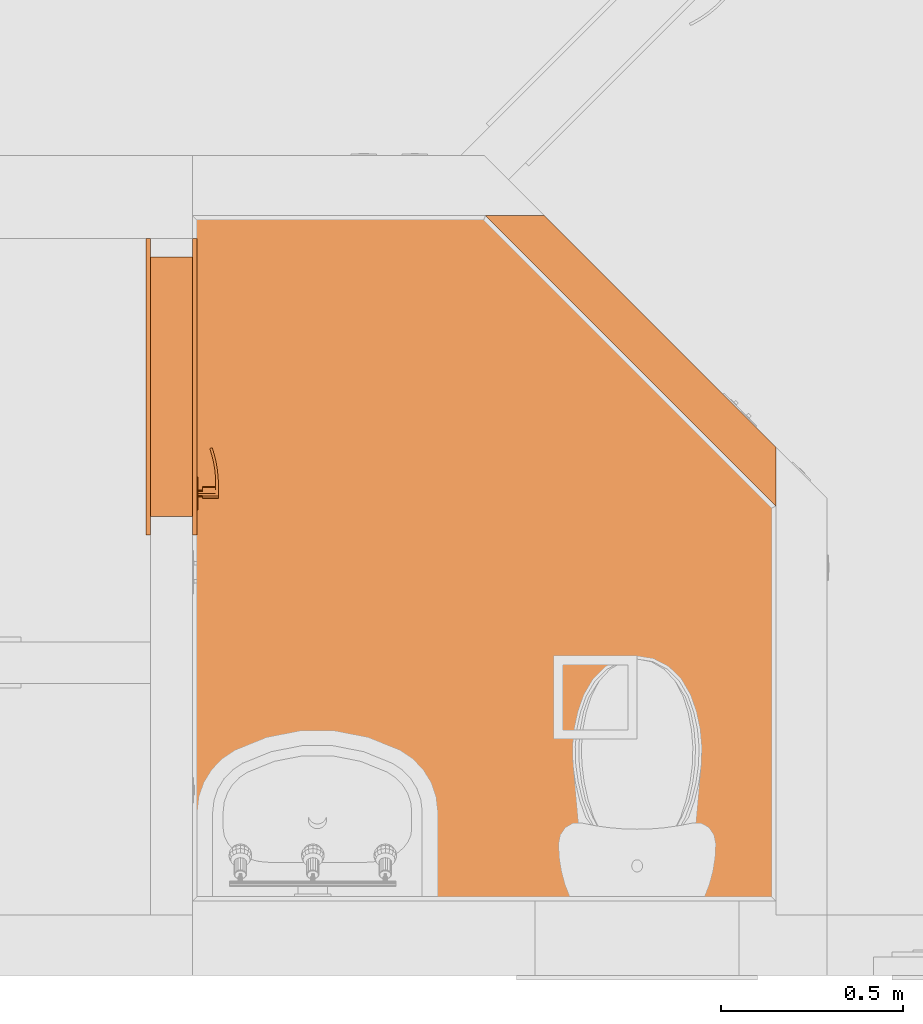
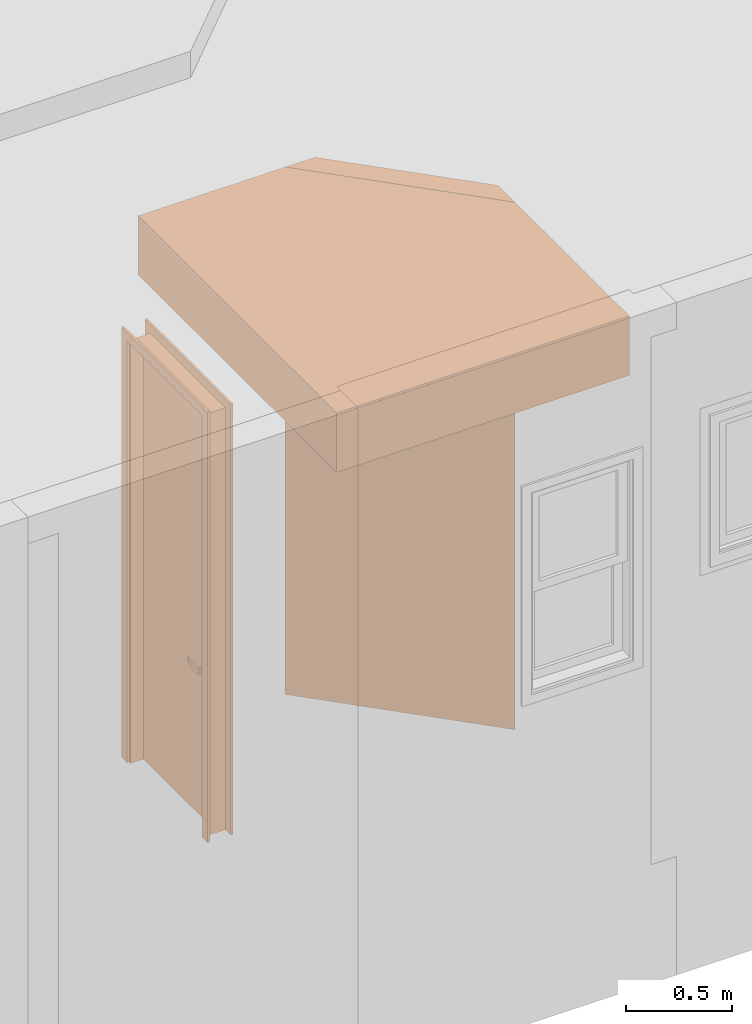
# One storey, part 81 of 103: 3 proxies.
"""IFC2X3 building model written with IfcOpenShell, lengths in inches."""

from ifc_helpers import new_model, entity, si_unit, converted_unit, derived_unit, money_unit, direction, frame, origin_with_axes, place, context, subcontext, project, spatial, open_shell, faceted_brep, surface_model, material, type_object, element, save


model = new_model("IFC2X3")

# Units and contexts
model_context = context("Model", 3, precision=0.00039370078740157, world=origin_with_axes(), true_north=direction((0.0, 1.0)))
plan_context = context("Plan", 3, precision=0.00039370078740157, world=origin_with_axes(), true_north=direction((0.0, 1.0)))
body_context = subcontext(model_context, "Body", "Model", "MODEL_VIEW")
ifc_project = project(units=[converted_unit("LENGTHUNIT", "INCH", entity("IfcPositiveLengthMeasure", 0.0254), si_unit("LENGTHUNIT", "METRE"), dimensions=[1, 0, 0, 0, 0, 0, 0]), converted_unit("AREAUNIT", "SQUARE_FOOT", entity("IfcPositiveLengthMeasure", 0.09290304), si_unit("AREAUNIT", "SQUARE_METRE"), dimensions=[2, 0, 0, 0, 0, 0, 0]), si_unit("PLANEANGLEUNIT", "RADIAN"), si_unit("SOLIDANGLEUNIT", "STERADIAN"), money_unit("USD"), converted_unit("TIMEUNIT", "Year", entity("IfcTimeMeasure", 31557600.0), si_unit("TIMEUNIT", "SECOND"), dimensions=[0, 0, 1, 0, 0, 0, 0]), si_unit("MASSUNIT", "GRAM", prefix="KILO"), si_unit("THERMODYNAMICTEMPERATUREUNIT", "DEGREE_CELSIUS"), si_unit("LUMINOUSINTENSITYUNIT", "LUMEN"), si_unit("ENERGYUNIT", "JOULE", prefix="MEGA"), derived_unit("SPECIFICHEATCAPACITYUNIT", [(si_unit("ENERGYUNIT", "JOULE"), 1), (si_unit("MASSUNIT", "GRAM", prefix="KILO"), -1), (si_unit("THERMODYNAMICTEMPERATUREUNIT", "KELVIN"), -1)])], contexts=[model_context, plan_context])

# Site, building, storey
site_placement = place(None, origin_with_axes())
site = spatial("IfcSite", under=ifc_project, at=site_placement, Name="Site", CompositionType="ELEMENT")
building_placement = place(site_placement, origin_with_axes())
building = spatial("IfcBuilding", under=site, at=building_placement, Name="Building", CompositionType="ELEMENT")
storey_placement = place(building_placement, frame((0.0, 0.0, 127.9999999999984), z_axis=(0.0, 0.0, 1.0), x_axis=(1.0, 0.0, 0.0)))
storey = spatial("IfcBuildingStorey", under=building, at=storey_placement, Name="Second Floor", CompositionType="ELEMENT", Elevation=128.0)

# Proxies
ifc_material = material(Name="Generic - Structural")
building_element_proxy_type_1 = type_object("IfcBuildingElementProxyType", Name="Generic - Structural 4 1/2\"", PredefinedType="NOTDEFINED")
proxy_1_placement = place(storey_placement, frame((383.9999999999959, 51.49999999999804, 0.0), z_axis=(0.0, 0.0, 1.0), x_axis=(-0.7071067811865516, 0.7071067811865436, 0.0)))
element("IfcBuildingElementProxy", 1, at=proxy_1_placement, inside=storey, type_object=building_element_proxy_type_1, material=ifc_material, Name="SW - 078", context=body_context, shape_type="Brep", body=[
    faceted_brep([(43.13351365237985, 0.0, 119.9999999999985), (47.6335136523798, 4.499999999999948, 119.9999999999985), (3.278174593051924, 4.499999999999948, 119.9999999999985), (7.778174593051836, 0.0, 119.9999999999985), (43.13351365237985, 0.0, 0.0), (47.6335136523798, 4.499999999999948, 0.0), (3.278174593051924, 4.499999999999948, 0.0), (7.778174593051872, 0.0, 0.0)], [[[0, 1, 2, 3]], [[1, 0, 4, 5]], [[1, 5, 6, 2]], [[7, 3, 2, 6]], [[4, 0, 3, 7]], [[5, 4, 7, 6]]]),
])
building_element_proxy_type_2 = type_object("IfcBuildingElementProxyType", Name="D1", PredefinedType="NOTDEFINED")
proxy_2_placement = place(storey_placement, frame((315.499999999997, 77.4999999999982, 0.0), z_axis=(0.0, 0.0, 1.0), x_axis=(0.0, -1.0, 0.0)))
element("IfcBuildingElementProxy", 2, at=proxy_2_placement, inside=storey, type_object=building_element_proxy_type_2, Name="D-07", context=body_context, shape_type="SurfaceModel", body=[
    faceted_brep([(29.99999999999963, 0.5000000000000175, 0.0), (29.99999999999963, 0.0, 0.0), (27.99999999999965, 0.0, 0.0), (27.99999999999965, 0.5000000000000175, 0.0), (29.99999999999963, 0.5000000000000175, 97.99999999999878), (29.99999999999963, 0.0, 97.99999999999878), (27.99999999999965, 0.0, 95.9999999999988), (27.99999999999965, 0.5000000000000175, 95.9999999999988)], [[[0, 1, 2, 3]], [[4, 5, 1, 0]], [[1, 5, 6, 2]], [[3, 2, 6, 7]], [[0, 3, 7, 4]], [[7, 6, 5, 4]]]),
    faceted_brep([(-1.999999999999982, 0.5000000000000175, 97.99999999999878), (-1.999999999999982, 0.0, 97.99999999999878), (0.0, 0.0, 95.9999999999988), (0.0, 0.5000000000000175, 95.9999999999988), (-1.999999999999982, 0.5000000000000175, 0.0), (-1.999999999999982, 0.0, 0.0), (0.0, 0.0, 0.0), (0.0, 0.5000000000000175, 0.0)], [[[0, 1, 2, 3]], [[4, 5, 1, 0]], [[1, 5, 6, 2]], [[3, 2, 6, 7]], [[0, 3, 7, 4]], [[7, 6, 5, 4]]]),
    faceted_brep([(29.99999999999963, 0.5000000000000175, 97.99999999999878), (29.99999999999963, 0.0, 97.99999999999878), (27.99999999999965, 0.0, 95.9999999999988), (27.99999999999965, 0.5000000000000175, 95.9999999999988), (-1.999999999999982, 0.5000000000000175, 97.99999999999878), (-1.999999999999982, 0.0, 97.99999999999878), (0.0, 0.0, 95.9999999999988), (0.0, 0.5000000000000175, 95.9999999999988)], [[[0, 1, 2, 3]], [[4, 5, 1, 0]], [[1, 5, 6, 2]], [[3, 2, 6, 7]], [[0, 3, 7, 4]], [[7, 6, 5, 4]]]),
    faceted_brep([(29.99999999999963, -4.99999999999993, 0.0), (27.99999999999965, -4.99999999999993, 0.0), (27.99999999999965, -4.499999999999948, 0.0), (29.99999999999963, -4.499999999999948, 0.0), (29.99999999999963, -4.99999999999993, 97.99999999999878), (27.99999999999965, -4.99999999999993, 95.9999999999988), (27.99999999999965, -4.499999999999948, 95.9999999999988), (29.99999999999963, -4.499999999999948, 97.99999999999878)], [[[0, 1, 2, 3]], [[0, 4, 5, 1]], [[1, 5, 6, 2]], [[3, 2, 6, 7]], [[4, 0, 3, 7]], [[5, 4, 7, 6]]]),
    faceted_brep([(-1.999999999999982, -4.99999999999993, 97.99999999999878), (0.0, -4.99999999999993, 95.9999999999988), (0.0, -4.499999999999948, 95.9999999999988), (-1.999999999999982, -4.499999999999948, 97.99999999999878), (-1.999999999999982, -4.99999999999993, 0.0), (0.0, -4.99999999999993, 0.0), (0.0, -4.499999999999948, 0.0), (-1.999999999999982, -4.499999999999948, 0.0)], [[[0, 1, 2, 3]], [[0, 4, 5, 1]], [[1, 5, 6, 2]], [[3, 2, 6, 7]], [[4, 0, 3, 7]], [[5, 4, 7, 6]]]),
    faceted_brep([(29.99999999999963, -4.99999999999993, 97.99999999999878), (27.99999999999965, -4.99999999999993, 95.9999999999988), (27.99999999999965, -4.499999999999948, 95.9999999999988), (29.99999999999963, -4.499999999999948, 97.99999999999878), (-1.999999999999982, -4.99999999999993, 97.99999999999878), (0.0, -4.99999999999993, 95.9999999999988), (0.0, -4.499999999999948, 95.9999999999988), (-1.999999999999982, -4.499999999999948, 97.99999999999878)], [[[0, 1, 2, 3]], [[0, 4, 5, 1]], [[1, 5, 6, 2]], [[3, 2, 6, 7]], [[4, 0, 3, 7]], [[5, 4, 7, 6]]]),
    faceted_brep([(27.99999999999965, 0.0, 0.0), (27.99999999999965, -4.499999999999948, 0.0), (27.49999999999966, -4.499999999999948, 0.0), (27.49999999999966, 0.0, 0.0), (27.99999999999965, 0.0, 95.49999999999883), (27.99999999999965, -4.499999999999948, 95.49999999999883), (27.49999999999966, -4.499999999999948, 95.49999999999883), (27.49999999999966, 0.0, 95.49999999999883)], [[[0, 1, 2, 3]], [[4, 5, 1, 0]], [[1, 5, 6, 2]], [[3, 2, 6, 7]], [[0, 3, 7, 4]], [[7, 6, 5, 4]]]),
    faceted_brep([(0.0, 0.0, 0.0), (0.0, -4.499999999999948, 0.0), (0.0, -4.499999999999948, 95.49999999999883), (0.0, 0.0, 95.49999999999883), (0.4999999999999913, 0.0, 0.0), (0.4999999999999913, -4.499999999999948, 0.0), (0.4999999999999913, -4.499999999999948, 95.49999999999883), (0.4999999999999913, 0.0, 95.49999999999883)], [[[0, 1, 2, 3]], [[4, 5, 1, 0]], [[1, 5, 6, 2]], [[3, 2, 6, 7]], [[0, 3, 7, 4]], [[7, 6, 5, 4]]]),
    faceted_brep([(27.99999999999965, 0.0, 95.9999999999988), (27.99999999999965, -4.499999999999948, 95.9999999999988), (27.99999999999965, -4.499999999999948, 95.49999999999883), (27.99999999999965, 0.0, 95.49999999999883), (0.0, 0.0, 95.9999999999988), (0.0, -4.499999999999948, 95.9999999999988), (0.0, -4.499999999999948, 95.49999999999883), (0.4999999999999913, -4.499999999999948, 95.49999999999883), (27.49999999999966, -4.499999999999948, 95.49999999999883), (27.49999999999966, 0.0, 95.49999999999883), (0.4999999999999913, 0.0, 95.49999999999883), (0.0, 0.0, 95.49999999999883)], [[[0, 1, 2, 3]], [[4, 5, 1, 0]], [[1, 5, 6, 7, 8, 2]], [[3, 2, 8, 9]], [[0, 3, 9, 10, 11, 4]], [[11, 6, 5, 4]], [[10, 7, 6, 11]], [[9, 8, 7, 10]]]),
    surface_model("IfcShellBasedSurfaceModel", [(23.94865528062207, -2.340551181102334, 36.89566929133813), (23.94865528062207, -2.336614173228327, 36.89566929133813), (23.70866141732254, -2.336614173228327, 35.99999999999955), (23.70866141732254, -2.340551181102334, 35.99999999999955), (24.60433070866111, -2.340551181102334, 37.55134471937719), (24.60433070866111, -2.336614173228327, 37.55134471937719), (23.94865528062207, -1.753937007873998, 36.89566929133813), (23.70866141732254, -1.753937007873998, 35.99999999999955), (23.94865528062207, -2.336614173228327, 35.104330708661), (23.94865528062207, -2.340551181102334, 35.104330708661), (24.60433070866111, -2.340551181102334, 34.44865528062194), (25.49999999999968, -2.340551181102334, 34.20866141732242), (26.39566929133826, -2.340551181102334, 34.44865528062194), (27.0513447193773, -2.340551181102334, 35.104330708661), (27.29133858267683, -2.340551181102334, 35.99999999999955), (27.0513447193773, -2.340551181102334, 36.89566929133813), (26.39566929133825, -2.340551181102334, 37.55134471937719), (25.49999999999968, -2.340551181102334, 37.79133858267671), (25.49999999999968, -2.336614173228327, 37.79133858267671), (24.60433070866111, -1.753937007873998, 37.55134471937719), (23.94865528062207, -1.749999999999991, 36.89566929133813), (23.70866141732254, -1.749999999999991, 35.99999999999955), (23.94865528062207, -1.753937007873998, 35.104330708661), (24.60433070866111, -2.336614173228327, 34.44865528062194), (25.49999999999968, -2.336614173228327, 34.20866141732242), (26.39566929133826, -2.336614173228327, 34.44865528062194), (27.0513447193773, -2.336614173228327, 35.104330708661), (27.29133858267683, -2.336614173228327, 35.99999999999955), (27.0513447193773, -2.336614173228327, 36.89566929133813), (26.39566929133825, -2.336614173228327, 37.55134471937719), (25.49999999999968, -1.753937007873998, 37.79133858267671), (24.60433070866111, -1.749999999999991, 37.55134471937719), (23.94865528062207, -1.749999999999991, 35.104330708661), (24.60433070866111, -1.753937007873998, 34.44865528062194), (25.49999999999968, -1.753937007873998, 34.20866141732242), (26.39566929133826, -1.753937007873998, 34.44865528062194), (27.0513447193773, -1.753937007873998, 35.104330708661), (27.29133858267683, -1.753937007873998, 35.99999999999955), (27.0513447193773, -1.753937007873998, 36.89566929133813), (26.39566929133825, -1.753937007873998, 37.55134471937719), (25.49999999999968, -1.749999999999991, 37.79133858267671), (24.60433070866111, -1.749999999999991, 34.44865528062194), (25.49999999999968, -1.749999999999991, 34.20866141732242), (26.39566929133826, -1.749999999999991, 34.44865528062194), (27.0513447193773, -1.749999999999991, 35.104330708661), (27.29133858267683, -1.749999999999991, 35.99999999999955), (27.0513447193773, -1.749999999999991, 36.89566929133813), (26.39566929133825, -1.749999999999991, 37.55134471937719)], [open_shell([[[0, 1, 2, 3]], [[4, 5, 1, 0]], [[1, 6, 7, 2]], [[3, 2, 8, 9]], [[3, 9, 10, 11, 12, 13, 14, 15, 16, 17, 4, 0]], [[17, 18, 5, 4]], [[5, 19, 6, 1]], [[6, 20, 21, 7]], [[2, 7, 22, 8]], [[9, 8, 23, 10]], [[10, 23, 24, 11]], [[11, 24, 25, 12]], [[12, 25, 26, 13]], [[13, 26, 27, 14]], [[14, 27, 28, 15]], [[15, 28, 29, 16]], [[16, 29, 18, 17]], [[18, 30, 19, 5]], [[19, 31, 20, 6]], [[7, 21, 32, 22]], [[8, 22, 33, 23]], [[23, 33, 34, 24]], [[24, 34, 35, 25]], [[25, 35, 36, 26]], [[26, 36, 37, 27]], [[27, 37, 38, 28]], [[28, 38, 39, 29]], [[29, 39, 30, 18]], [[30, 40, 31, 19]], [[22, 32, 41, 33]], [[33, 41, 42, 34]], [[34, 42, 43, 35]], [[35, 43, 44, 36]], [[36, 44, 45, 37]], [[37, 45, 46, 38]], [[38, 46, 47, 39]], [[39, 47, 40, 30]]])]),
    faceted_brep([(25.69685039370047, -2.340551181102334, 35.65904511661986), (25.49999999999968, -2.340551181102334, 35.60629921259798), (25.30314960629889, -2.340551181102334, 35.65904511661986), (25.15904511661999, -2.340551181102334, 35.80314960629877), (25.10629921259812, -2.340551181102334, 35.99999999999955), (25.15904511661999, -2.340551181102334, 36.19685039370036), (25.30314960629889, -2.340551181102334, 36.34095488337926), (25.49999999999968, -2.340551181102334, 36.39370078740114), (25.69685039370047, -2.340551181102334, 36.34095488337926), (25.84095488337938, -2.340551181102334, 36.19685039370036), (25.89370078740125, -2.340551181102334, 35.99999999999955), (25.84095488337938, -2.340551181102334, 35.80314960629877), (25.69685039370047, -2.852362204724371, 35.65904511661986), (25.49999999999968, -2.852362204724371, 35.60629921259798), (25.30314960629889, -2.852362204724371, 35.65904511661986), (25.15904511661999, -2.852362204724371, 35.80314960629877), (25.10629921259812, -2.852362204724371, 35.99999999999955), (25.15904511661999, -2.852362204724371, 36.19685039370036), (25.30314960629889, -2.852362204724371, 36.34095488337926), (25.49999999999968, -2.852362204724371, 36.39370078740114), (25.69685039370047, -2.852362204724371, 36.34095488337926), (25.84095488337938, -2.852362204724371, 36.19685039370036), (25.89370078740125, -2.852362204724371, 35.99999999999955), (25.84095488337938, -2.852362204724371, 35.80314960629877)], [[[0, 1, 2, 3, 4, 5, 6, 7, 8, 9, 10, 11]], [[0, 12, 13, 1]], [[1, 13, 14, 2]], [[2, 14, 15, 3]], [[3, 15, 16, 4]], [[4, 16, 17, 5]], [[5, 17, 18, 6]], [[6, 18, 19, 7]], [[7, 19, 20, 8]], [[8, 20, 21, 9]], [[9, 21, 22, 10]], [[10, 22, 23, 11]], [[11, 23, 12, 0]], [[12, 23, 22, 21, 20, 19, 18, 17, 16, 15, 14, 13]]]),
    faceted_brep([(25.49999999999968, -2.852362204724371, 36.55118110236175), (25.49999999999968, -4.269685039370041, 36.55118110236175), (25.77559055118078, -4.269685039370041, 36.47733683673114), (25.77559055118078, -2.852362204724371, 36.47733683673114), (25.10629921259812, -2.852362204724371, 36.47244094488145), (25.10629921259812, -4.269685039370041, 36.47244094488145), (24.87352117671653, -4.269685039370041, 36.35358914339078), (24.73705189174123, -4.269685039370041, 36.13068221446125), (24.73705189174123, -4.269685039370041, 35.86931778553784), (24.87352117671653, -4.269685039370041, 35.64641085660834), (25.10629921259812, -4.269685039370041, 35.52755905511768), (25.49999999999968, -4.269685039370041, 35.44881889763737), (25.77559055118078, -4.269685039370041, 35.52266316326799), (25.97733683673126, -4.269685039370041, 35.72440944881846), (26.05118110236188, -4.269685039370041, 35.99999999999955), (25.97733683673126, -4.269685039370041, 36.27559055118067), (25.97733683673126, -2.852362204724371, 36.27559055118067), (26.05118110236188, -2.852362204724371, 35.99999999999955), (25.97733683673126, -2.852362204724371, 35.72440944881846), (25.77559055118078, -2.852362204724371, 35.52266316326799), (25.49999999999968, -2.852362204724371, 35.44881889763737), (25.10629921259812, -2.852362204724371, 35.52755905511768), (24.87352117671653, -2.852362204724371, 35.64641085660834), (24.73705189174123, -2.852362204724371, 35.86931778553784), (24.73705189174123, -2.852362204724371, 36.13068221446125), (24.87352117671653, -2.852362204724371, 36.35358914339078)], [[[0, 1, 2, 3]], [[4, 5, 1, 0]], [[1, 5, 6, 7, 8, 9, 10, 11, 12, 13, 14, 15, 2]], [[3, 2, 15, 16]], [[0, 3, 16, 17, 18, 19, 20, 21, 22, 23, 24, 25, 4]], [[25, 6, 5, 4]], [[24, 7, 6, 25]], [[23, 8, 7, 24]], [[22, 9, 8, 23]], [[21, 10, 9, 22]], [[20, 11, 10, 21]], [[19, 12, 11, 20]], [[18, 13, 12, 19]], [[17, 14, 13, 18]], [[16, 15, 14, 17]]]),
    surface_model("IfcShellBasedSurfaceModel", [(25.49999999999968, -4.269685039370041, 36.55118110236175), (25.49999999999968, -4.545275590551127, 36.55118110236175), (25.77559055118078, -4.545275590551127, 36.47733683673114), (25.77559055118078, -4.269685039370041, 36.47733683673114), (24.51574803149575, -4.269685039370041, 36.55118110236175), (24.51574803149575, -4.545275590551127, 36.55118110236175), (24.51574803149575, -4.545275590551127, 35.44881889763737), (25.49999999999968, -4.545275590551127, 35.44881889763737), (25.77559055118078, -4.545275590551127, 35.52266316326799), (25.97733683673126, -4.545275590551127, 35.72440944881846), (26.05118110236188, -4.545275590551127, 35.99999999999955), (25.97733683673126, -4.545275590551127, 36.27559055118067), (25.97733683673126, -4.269685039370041, 36.27559055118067), (26.05118110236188, -4.269685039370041, 35.99999999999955), (25.97733683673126, -4.269685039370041, 35.72440944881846), (25.77559055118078, -4.269685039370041, 35.52266316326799), (25.49999999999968, -4.269685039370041, 35.44881889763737), (24.51574803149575, -4.269685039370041, 35.44881889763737)], [open_shell([[[0, 1, 2, 3]], [[4, 5, 1, 0]], [[1, 5, 6, 7, 8, 9, 10, 11, 2]], [[3, 2, 11, 12]], [[0, 3, 12, 13, 14, 15, 16, 17, 4]], [[16, 7, 6, 17]], [[15, 8, 7, 16]], [[14, 9, 8, 15]], [[13, 10, 9, 14]], [[12, 11, 10, 13]]])]),
    surface_model("IfcShellBasedSurfaceModel", [(24.51574803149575, -4.269685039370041, 35.44881889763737), (23.98803506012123, -4.545275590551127, 35.47974008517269), (24.00006760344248, -4.269685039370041, 35.47974008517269), (24.51574803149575, -4.545275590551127, 35.44881889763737), (22.93662533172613, -4.453289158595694, 35.54158246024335), (24.00006760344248, -4.269685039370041, 36.52025991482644), (24.51574803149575, -4.269685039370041, 36.55118110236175), (24.51574803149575, -4.545275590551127, 36.55118110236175), (23.98803506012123, -4.545275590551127, 36.52025991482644), (22.93662533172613, -4.453289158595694, 36.45841753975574), (22.97263138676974, -4.179796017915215, 35.54158246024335), (22.97263138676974, -4.179796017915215, 36.45841753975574), (21.89723368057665, -4.270016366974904, 36.39657516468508), (21.89723368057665, -4.270016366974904, 35.60342483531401), (21.95693921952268, -4.000702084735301, 35.60342483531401), (21.95693921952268, -4.000702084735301, 36.39657516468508), (20.87777050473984, -3.996852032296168, 36.33473278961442), (20.87777050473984, -3.996852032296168, 35.66526721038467), (20.96072113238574, -3.733766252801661, 35.66526721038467), (20.96072113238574, -3.733766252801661, 36.33473278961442), (20.56058250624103, -3.881405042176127, 36.3149606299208), (20.56058250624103, -3.881405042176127, 35.68503937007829), (20.65076543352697, -3.620951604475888, 35.68503937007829), (20.65076543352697, -3.620951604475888, 36.3149606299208)], [open_shell([[[0, 1, 2]], [[0, 3, 1]], [[2, 1, 4]], [[0, 2, 5, 6]], [[3, 7, 8, 1]], [[1, 8, 9, 4]], [[2, 4, 10]], [[2, 10, 11, 5]], [[5, 7, 6]], [[5, 8, 7]], [[11, 9, 8]], [[4, 9, 12, 13]], [[10, 4, 13]], [[10, 14, 15, 11]], [[11, 8, 5]], [[15, 9, 11]], [[15, 12, 9]], [[13, 12, 16, 17]], [[10, 13, 14]], [[14, 18, 19, 15]], [[19, 12, 15]], [[19, 16, 12]], [[17, 16, 20, 21]], [[14, 13, 17]], [[14, 17, 18]], [[18, 22, 23, 19]], [[23, 16, 19]], [[23, 20, 16]], [[22, 21, 20, 23]], [[18, 17, 21]], [[18, 21, 22]]])]),
    surface_model("IfcShellBasedSurfaceModel", [(23.94865528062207, 0.5905511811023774, 36.89566929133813), (23.70866141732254, 0.5905511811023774, 35.99999999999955), (23.70866141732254, 0.5866141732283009, 35.99999999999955), (23.94865528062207, 0.5866141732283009, 36.89566929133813), (24.60433070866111, 0.5905511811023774, 37.55134471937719), (25.49999999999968, 0.5905511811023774, 37.79133858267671), (26.39566929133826, 0.5905511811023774, 37.55134471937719), (27.0513447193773, 0.5905511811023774, 36.89566929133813), (27.29133858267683, 0.5905511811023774, 35.99999999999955), (27.0513447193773, 0.5905511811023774, 35.104330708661), (26.39566929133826, 0.5905511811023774, 34.44865528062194), (25.49999999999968, 0.5905511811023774, 34.20866141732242), (24.60433070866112, 0.5905511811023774, 34.44865528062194), (23.94865528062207, 0.5905511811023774, 35.104330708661), (23.94865528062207, 0.5866141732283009, 35.104330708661), (23.70866141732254, 0.003937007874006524, 35.99999999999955), (23.94865528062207, 0.003937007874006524, 36.89566929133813), (24.60433070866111, 0.5866141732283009, 37.55134471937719), (25.49999999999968, 0.5866141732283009, 37.79133858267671), (26.39566929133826, 0.5866141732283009, 37.55134471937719), (27.0513447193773, 0.5866141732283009, 36.89566929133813), (27.29133858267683, 0.5866141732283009, 35.99999999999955), (27.0513447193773, 0.5866141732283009, 35.104330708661), (26.39566929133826, 0.5866141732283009, 34.44865528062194), (25.49999999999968, 0.5866141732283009, 34.20866141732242), (24.60433070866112, 0.5866141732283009, 34.44865528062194), (23.94865528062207, 0.003937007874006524, 35.104330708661), (23.70866141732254, 0.0, 35.99999999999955), (23.94865528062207, 0.0, 36.89566929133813), (24.60433070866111, 0.003937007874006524, 37.55134471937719), (25.49999999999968, 0.003937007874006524, 37.79133858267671), (26.39566929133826, 0.003937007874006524, 37.55134471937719), (27.0513447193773, 0.003937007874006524, 36.89566929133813), (27.29133858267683, 0.003937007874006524, 35.99999999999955), (27.0513447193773, 0.003937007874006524, 35.104330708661), (26.39566929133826, 0.003937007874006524, 34.44865528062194), (25.49999999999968, 0.003937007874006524, 34.20866141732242), (24.60433070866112, 0.003937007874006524, 34.44865528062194), (23.94865528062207, 0.0, 35.104330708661), (24.60433070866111, 0.0, 37.55134471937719), (25.49999999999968, 0.0, 37.79133858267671), (26.39566929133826, 0.0, 37.55134471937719), (27.0513447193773, 0.0, 36.89566929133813), (27.29133858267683, 0.0, 35.99999999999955), (27.0513447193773, 0.0, 35.104330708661), (26.39566929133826, 0.0, 34.44865528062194), (25.49999999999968, 0.0, 34.20866141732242), (24.60433070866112, 0.0, 34.44865528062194)], [open_shell([[[0, 1, 2, 3]], [[1, 0, 4, 5, 6, 7, 8, 9, 10, 11, 12, 13]], [[1, 13, 14, 2]], [[3, 2, 15, 16]], [[4, 0, 3, 17]], [[5, 4, 17, 18]], [[6, 5, 18, 19]], [[7, 6, 19, 20]], [[8, 7, 20, 21]], [[9, 8, 21, 22]], [[10, 9, 22, 23]], [[11, 10, 23, 24]], [[12, 11, 24, 25]], [[13, 12, 25, 14]], [[2, 14, 26, 15]], [[16, 15, 27, 28]], [[17, 3, 16, 29]], [[18, 17, 29, 30]], [[19, 18, 30, 31]], [[20, 19, 31, 32]], [[21, 20, 32, 33]], [[22, 21, 33, 34]], [[23, 22, 34, 35]], [[24, 23, 35, 36]], [[25, 24, 36, 37]], [[14, 25, 37, 26]], [[15, 26, 38, 27]], [[29, 16, 28, 39]], [[30, 29, 39, 40]], [[31, 30, 40, 41]], [[32, 31, 41, 42]], [[33, 32, 42, 43]], [[34, 33, 43, 44]], [[35, 34, 44, 45]], [[36, 35, 45, 46]], [[37, 36, 46, 47]], [[26, 37, 47, 38]]])]),
    faceted_brep([(25.69685039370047, 0.5905511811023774, 35.65904511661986), (25.84095488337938, 0.5905511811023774, 35.80314960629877), (25.89370078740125, 0.5905511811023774, 35.99999999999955), (25.84095488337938, 0.5905511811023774, 36.19685039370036), (25.69685039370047, 0.5905511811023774, 36.34095488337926), (25.49999999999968, 0.5905511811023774, 36.39370078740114), (25.30314960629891, 0.5905511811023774, 36.34095488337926), (25.15904511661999, 0.5905511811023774, 36.19685039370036), (25.10629921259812, 0.5905511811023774, 35.99999999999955), (25.15904511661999, 0.5905511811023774, 35.80314960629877), (25.30314960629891, 0.5905511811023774, 35.65904511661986), (25.49999999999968, 0.5905511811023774, 35.60629921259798), (25.69685039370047, 1.102362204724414, 35.65904511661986), (25.84095488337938, 1.102362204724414, 35.80314960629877), (25.89370078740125, 1.102362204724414, 35.99999999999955), (25.84095488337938, 1.102362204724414, 36.19685039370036), (25.69685039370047, 1.102362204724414, 36.34095488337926), (25.49999999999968, 1.102362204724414, 36.39370078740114), (25.30314960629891, 1.102362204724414, 36.34095488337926), (25.15904511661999, 1.102362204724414, 36.19685039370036), (25.10629921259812, 1.102362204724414, 35.99999999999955), (25.15904511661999, 1.102362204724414, 35.80314960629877), (25.30314960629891, 1.102362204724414, 35.65904511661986), (25.49999999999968, 1.102362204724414, 35.60629921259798)], [[[0, 1, 2, 3, 4, 5, 6, 7, 8, 9, 10, 11]], [[1, 0, 12, 13]], [[2, 1, 13, 14]], [[3, 2, 14, 15]], [[4, 3, 15, 16]], [[5, 4, 16, 17]], [[6, 5, 17, 18]], [[7, 6, 18, 19]], [[8, 7, 19, 20]], [[9, 8, 20, 21]], [[10, 9, 21, 22]], [[11, 10, 22, 23]], [[0, 11, 23, 12]], [[12, 23, 22, 21, 20, 19, 18, 17, 16, 15, 14, 13]]]),
    faceted_brep([(25.49999999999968, 1.102362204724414, 36.55118110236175), (25.77559055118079, 1.102362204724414, 36.47733683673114), (25.77559055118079, 2.51968503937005, 36.47733683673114), (25.49999999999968, 2.51968503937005, 36.55118110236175), (25.10629921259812, 1.102362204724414, 36.47244094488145), (24.87352117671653, 1.102362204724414, 36.35358914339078), (24.73705189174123, 1.102362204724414, 36.13068221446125), (24.73705189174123, 1.102362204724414, 35.86931778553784), (24.87352117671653, 1.102362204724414, 35.64641085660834), (25.10629921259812, 1.102362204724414, 35.52755905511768), (25.49999999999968, 1.102362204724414, 35.44881889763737), (25.77559055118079, 1.102362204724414, 35.52266316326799), (25.97733683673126, 1.102362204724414, 35.72440944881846), (26.05118110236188, 1.102362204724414, 35.99999999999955), (25.97733683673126, 1.102362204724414, 36.27559055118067), (25.97733683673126, 2.51968503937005, 36.27559055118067), (26.05118110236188, 2.51968503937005, 35.99999999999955), (25.97733683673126, 2.51968503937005, 35.72440944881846), (25.77559055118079, 2.51968503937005, 35.52266316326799), (25.49999999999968, 2.51968503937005, 35.44881889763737), (25.10629921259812, 2.51968503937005, 35.52755905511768), (24.87352117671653, 2.51968503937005, 35.64641085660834), (24.73705189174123, 2.51968503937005, 35.86931778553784), (24.73705189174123, 2.51968503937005, 36.13068221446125), (24.87352117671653, 2.51968503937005, 36.35358914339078), (25.10629921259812, 2.51968503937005, 36.47244094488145)], [[[0, 1, 2, 3]], [[0, 4, 5, 6, 7, 8, 9, 10, 11, 12, 13, 14, 1]], [[1, 14, 15, 2]], [[3, 2, 15, 16, 17, 18, 19, 20, 21, 22, 23, 24, 25]], [[4, 0, 3, 25]], [[5, 4, 25, 24]], [[6, 5, 24, 23]], [[7, 6, 23, 22]], [[8, 7, 22, 21]], [[9, 8, 21, 20]], [[10, 9, 20, 19]], [[11, 10, 19, 18]], [[12, 11, 18, 17]], [[13, 12, 17, 16]], [[14, 13, 16, 15]]]),
    surface_model("IfcShellBasedSurfaceModel", [(25.49999999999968, 2.51968503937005, 36.55118110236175), (25.77559055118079, 2.51968503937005, 36.47733683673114), (25.77559055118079, 2.795275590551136, 36.47733683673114), (25.49999999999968, 2.795275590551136, 36.55118110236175), (24.51574803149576, 2.51968503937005, 36.55118110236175), (24.51574803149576, 2.51968503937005, 35.44881889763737), (25.49999999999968, 2.51968503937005, 35.44881889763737), (25.77559055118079, 2.51968503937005, 35.52266316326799), (25.97733683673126, 2.51968503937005, 35.72440944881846), (26.05118110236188, 2.51968503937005, 35.99999999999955), (25.97733683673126, 2.51968503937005, 36.27559055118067), (25.97733683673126, 2.795275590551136, 36.27559055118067), (26.05118110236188, 2.795275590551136, 35.99999999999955), (25.97733683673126, 2.795275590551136, 35.72440944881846), (25.77559055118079, 2.795275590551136, 35.52266316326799), (25.49999999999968, 2.795275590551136, 35.44881889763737), (24.51574803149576, 2.795275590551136, 35.44881889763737), (24.51574803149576, 2.795275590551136, 36.55118110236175)], [open_shell([[[0, 1, 2, 3]], [[0, 4, 5, 6, 7, 8, 9, 10, 1]], [[1, 10, 11, 2]], [[3, 2, 11, 12, 13, 14, 15, 16, 17]], [[4, 0, 3, 17]], [[6, 5, 16, 15]], [[7, 6, 15, 14]], [[8, 7, 14, 13]], [[9, 8, 13, 12]], [[10, 9, 12, 11]]])]),
    surface_model("IfcShellBasedSurfaceModel", [(24.51574803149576, 2.51968503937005, 35.44881889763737), (24.00006760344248, 2.51968503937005, 35.47974008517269), (23.98803506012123, 2.795275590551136, 35.47974008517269), (24.51574803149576, 2.51968503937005, 36.55118110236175), (24.00006760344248, 2.51968503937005, 36.52025991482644), (22.93662533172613, 2.703289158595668, 35.54158246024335), (24.51574803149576, 2.795275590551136, 35.44881889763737), (24.51574803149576, 2.795275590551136, 36.55118110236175), (22.97263138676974, 2.429796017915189, 36.45841753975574), (22.97263138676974, 2.429796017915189, 35.54158246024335), (22.93662533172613, 2.703289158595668, 36.45841753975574), (23.98803506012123, 2.795275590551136, 36.52025991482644), (21.95693921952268, 2.250702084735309, 36.39657516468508), (21.95693921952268, 2.250702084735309, 35.60342483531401), (21.89723368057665, 2.520016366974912, 35.60342483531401), (21.89723368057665, 2.520016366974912, 36.39657516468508), (20.96072113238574, 1.983766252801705, 36.33473278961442), (20.96072113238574, 1.983766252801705, 35.66526721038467), (20.87777050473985, 2.246852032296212, 35.66526721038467), (20.87777050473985, 2.246852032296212, 36.33473278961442), (20.65076543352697, 1.870951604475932, 36.3149606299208), (20.65076543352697, 1.870951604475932, 35.68503937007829), (20.56058250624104, 2.131405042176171, 35.68503937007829), (20.56058250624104, 2.131405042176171, 36.3149606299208)], [open_shell([[[0, 1, 2]], [[0, 3, 4, 1]], [[1, 5, 2]], [[0, 2, 6]], [[4, 3, 7]], [[1, 4, 8, 9]], [[1, 9, 5]], [[2, 5, 10, 11]], [[6, 2, 11, 7]], [[4, 7, 11]], [[8, 4, 11]], [[9, 8, 12, 13]], [[9, 14, 5]], [[5, 14, 15, 10]], [[8, 11, 10]], [[12, 8, 10]], [[13, 12, 16, 17]], [[9, 13, 14]], [[14, 18, 19, 15]], [[12, 10, 15]], [[16, 12, 15]], [[17, 16, 20, 21]], [[13, 17, 18]], [[13, 18, 14]], [[18, 22, 23, 19]], [[16, 15, 19]], [[20, 16, 19]], [[21, 20, 23, 22]], [[17, 21, 22]], [[17, 22, 18]], [[20, 19, 23]]])]),
    faceted_brep([(27.4606299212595, -1.749999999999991, 0.03937007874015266), (27.4606299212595, -1.749999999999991, 95.46062992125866), (0.5393700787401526, -1.749999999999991, 95.46062992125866), (0.5393700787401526, -1.749999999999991, 0.03937007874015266), (27.4606299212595, 0.0, 0.03937007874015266), (27.4606299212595, 0.0, 95.46062992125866), (0.5393700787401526, 0.0, 95.46062992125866), (0.5393700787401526, 0.0, 0.03937007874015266)], [[[0, 1, 2, 3]], [[4, 5, 1, 0]], [[2, 1, 5, 6]], [[3, 2, 6, 7]], [[7, 4, 0, 3]], [[7, 6, 5, 4]]]),
    faceted_brep([(0.4999999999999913, 0.0, 0.0), (27.49999999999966, 0.0, 0.0), (27.49999999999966, -1.749999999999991, 0.0), (0.4999999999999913, -1.749999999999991, 0.0), (0.4999999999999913, 0.0, 95.49999999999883), (27.49999999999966, 0.0, 95.49999999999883), (0.5393700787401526, 0.0, 0.03937007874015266), (27.4606299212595, 0.0, 0.03937007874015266), (27.4606299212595, 0.0, 95.46062992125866), (0.5393700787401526, 0.0, 95.46062992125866), (27.49999999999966, -1.749999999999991, 95.49999999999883), (0.4999999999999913, -1.749999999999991, 95.49999999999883), (0.5393700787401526, -1.749999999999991, 0.03937007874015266), (0.5393700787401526, -1.749999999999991, 95.46062992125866), (27.4606299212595, -1.749999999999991, 95.46062992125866), (27.4606299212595, -1.749999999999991, 0.03937007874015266)], [[[0, 1, 2, 3]], [[0, 4, 5, 1], [6, 7, 8, 9]], [[1, 5, 10, 2]], [[3, 2, 10, 11], [12, 13, 14, 15]], [[4, 0, 3, 11]], [[5, 4, 11, 10]], [[7, 6, 12, 15]], [[8, 7, 15, 14]], [[9, 8, 14, 13]], [[6, 9, 13, 12]]]),
])
building_element_proxy_type_3 = type_object("IfcBuildingElementProxyType", Name="Generic - Structural 13 1/2\"", PredefinedType="NOTDEFINED")
proxy_3_placement = place(storey_placement, frame((315.499999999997, 7.999999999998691, 106.4999999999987), z_axis=(0.0, 0.0, 1.0), x_axis=(1.0, 0.0, 0.0)))
element("IfcBuildingElementProxy", 3, at=proxy_3_placement, inside=storey, type_object=building_element_proxy_type_3, material=ifc_material, Name="SLA - 009", context=body_context, shape_type="Brep", body=[
    faceted_brep([(0.0, 0.0, 13.49999999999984), (0.0, 0.0, 0.0), (62.99999999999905, 0.0, 0.0), (62.99999999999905, 0.0, 13.49999999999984), (0.0, 73.99999999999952, 13.49999999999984), (0.0, 73.99999999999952, 0.0), (31.63603896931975, 73.99999999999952, 0.0), (62.99999999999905, 42.63603896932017, 0.0), (62.99999999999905, 42.63603896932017, 13.49999999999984), (31.63603896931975, 73.99999999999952, 13.49999999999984)], [[[0, 1, 2, 3]], [[4, 5, 1, 0]], [[2, 1, 5, 6, 7]], [[3, 2, 7, 8]], [[4, 0, 3, 8, 9]], [[9, 6, 5, 4]], [[8, 7, 6, 9]]]),
])

save(model, "model.ifc")
